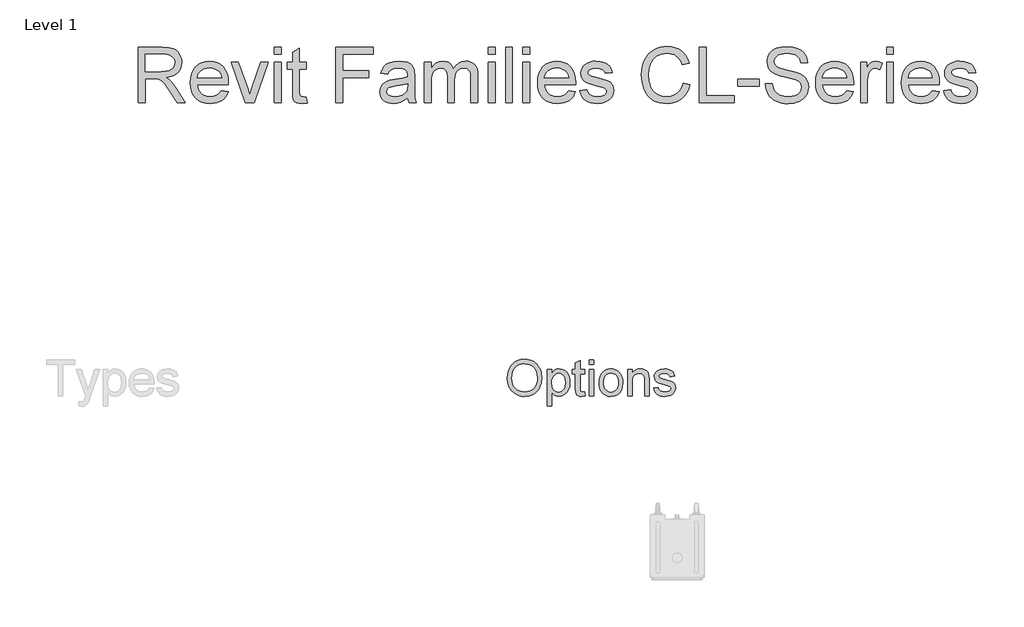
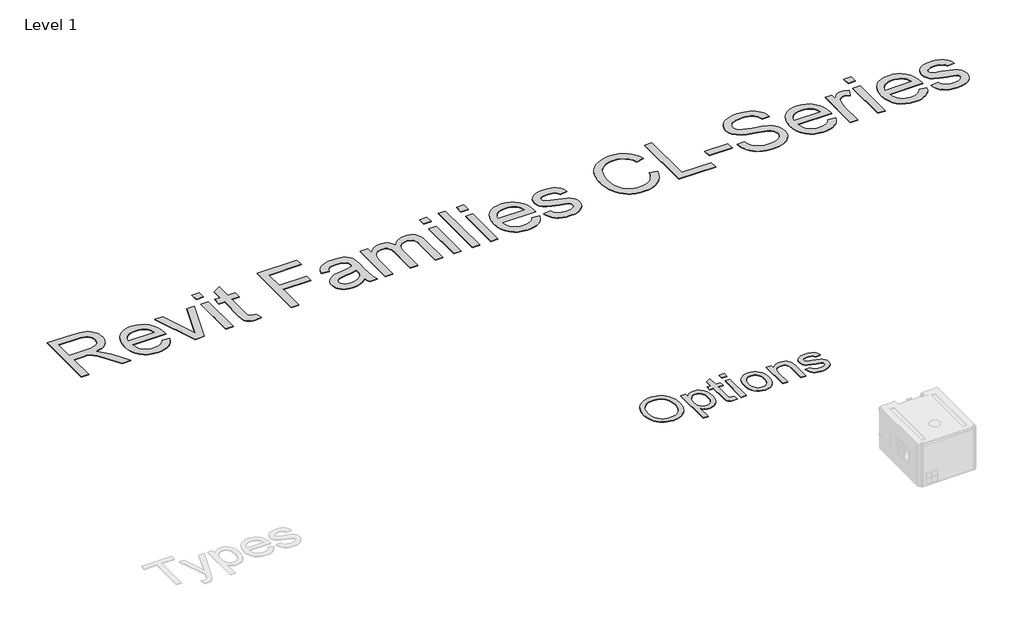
# One storey, part 25 of 31: 2 proxies.
"""IFC4 building model written with IfcOpenShell, lengths in millimetres."""

from ifc_helpers import new_model, si_unit, origin, origin_with_axes, place, context, project, spatial, polyline, outline, extrude, element, save

model = new_model("IFC4")

# Units and contexts
model_context = context("Model", 3, world=origin())
ifc_project = project(units=[si_unit("LENGTHUNIT", "METRE", prefix="MILLI")], contexts=[model_context])

# Site, building, storey
site = spatial("IfcSite", under=ifc_project)
building = spatial("IfcBuilding", under=site)
storey = spatial("IfcBuildingStorey", under=building, Name="Level 1", Elevation=0.0)

# Proxies
placement = place(None, origin())
element("IfcBuildingElementProxy", 1, Name="400mm Arial", ObjectType="400mm Arial", at=placement, inside=storey, context=model_context, shape_type="SweptSolid", body=[
    extrude(outline(polyline([(-6462.261333, 17542.0194987), (-6458.9974836, 17587.9704339), (-6449.2059353, 17628.6489968), (-6432.8866881, 17664.0551876), (-6410.0397421, 17694.1890063), (-6382.0340011, 17718.2494348), (-6350.238369, 17735.4354552), (-6314.6528458, 17745.7470674), (-6275.2774315, 17749.1842715), (-6248.9215484, 17747.57028), (-6223.892725, 17742.7283055), (-6200.1909613, 17734.6583482), (-6177.8162572, 17723.3604078), (-6157.3962762, 17709.1752161), (-6139.5586815, 17692.4435044), (-6124.3034732, 17673.1652729), (-6111.6306512, 17651.3405215), (-6101.671726, 17627.4654031), (-6094.558208, 17602.0360707), (-6088.8673936, 17546.5147639), (-6094.8570953, 17490.2522165), (-6102.3442224, 17464.4701971), (-6112.8262004, 17440.2543472), (-6126.0549528, 17418.2442857), (-6141.7824031, 17399.0796313), (-6160.0085513, 17382.7603841), (-6180.7333974, 17369.2865442), (-6226.4153339, 17351.2098396), (-6275.5643633, 17345.1842715), (-6302.3805328, 17346.8490738), (-6327.7381322, 17351.8434807), (-6351.6371616, 17360.1674923), (-6374.0776209, 17371.8211086), (-6394.473691, 17386.3530096), (-6412.2395527, 17403.3118756), (-6427.3752061, 17422.6977066), (-6439.8806512, 17444.5105025), (-6456.6661625, 17491.91403), (-6462.261333, 17542.0194987)]), holes=[polyline([(-6413.291636, 17541.541279), (-6410.843749, 17509.0761393), (-6403.5000877, 17480.2574249), (-6391.2606524, 17455.0851356), (-6374.1254429, 17433.5592715), (-6353.2959862, 17416.3194514), (-6329.9738093, 17404.0052942), (-6304.1589123, 17396.6167999), (-6275.8512951, 17394.1539684), (-6247.0594805, 17396.6407108), (-6220.9397184, 17404.1009381), (-6197.4920089, 17416.5346502), (-6176.7163519, 17433.9418472), (-6159.7066751, 17455.92202), (-6147.5569059, 17482.0746597), (-6140.2670444, 17512.3997662), (-6137.8370906, 17546.8973396), (-6141.9976019, 17590.2479552), (-6154.479136, 17627.7164684), (-6174.9588946, 17658.3583955), (-6203.1140792, 17681.2292525), (-6237.0796332, 17695.468244), (-6274.9904997, 17700.2145745), (-6302.3147776, 17697.9280866), (-6327.6663993, 17691.0686228), (-6351.0453647, 17679.6361831), (-6372.4516739, 17663.6307677), (-6390.3191573, 17642.2812471), (-6403.0816455, 17614.8164921), (-6410.7391384, 17581.2365027), (-6413.291636, 17541.541279)])]), origin_with_axes(), (0.0, 0.0, 1.0), 5.0),
    extrude(outline(polyline([(-6027.6552724, 17241.1236654), (-6027.6552724, 17639.0024533), (-5978.6855754, 17639.0024533), (-5978.6855754, 17590.9891957), (-5962.7130375, 17614.6730262), (-5944.8276209, 17631.590048), (-5923.9772421, 17641.740261), (-5899.1098179, 17645.1236654), (-5865.9931038, 17640.3892904), (-5837.0369012, 17626.1861654), (-5813.4606701, 17603.3750858), (-5796.4838709, 17572.8168472), (-5786.2260584, 17536.7351711), (-5782.8067875, 17497.353779), (-5786.6684116, 17455.4736891), (-5798.2532838, 17418.0171313), (-5817.1907838, 17386.885029), (-5843.1102913, 17363.9783055), (-5873.2979097, 17349.88278), (-5905.0397421, 17345.1842715), (-5927.5519343, 17348.328566), (-5947.6491171, 17357.7614495), (-5964.8530707, 17372.000441), (-5978.6855754, 17389.5630593), (-5978.6855754, 17241.1236654), (-6027.6552724, 17241.1236654)]), holes=[polyline([(-5978.6855754, 17492.8585139), (-5973.3892923, 17448.9579457), (-5966.7689384, 17431.9572355), (-5957.5004429, 17418.2562411), (-5934.0557222, 17400.1795366), (-5920.6386708, 17395.6603605), (-5906.0918254, 17394.1539684), (-5891.3357589, 17395.7141602), (-5877.6736199, 17400.3947355), (-5853.6311247, 17419.1170366), (-5844.0697196, 17433.3141839), (-5837.2401446, 17450.9425574), (-5831.7764845, 17496.4929836), (-5837.1086341, 17540.1544419), (-5843.7738212, 17557.2866625), (-5853.105083, 17571.2865442), (-5876.5139372, 17589.9371124), (-5889.778556, 17594.5997544), (-5904.0833027, 17596.1539684), (-5918.3432163, 17594.5011216), (-5931.7602677, 17589.5425811), (-5956.0657838, 17569.7084192), (-5965.9619426, 17554.9882191), (-5973.0306275, 17537.2731682), (-5977.2718384, 17516.5632665), (-5978.6855754, 17492.8585139)])]), origin_with_axes(), (0.0, 0.0, 1.0), 5.0),
    extrude(outline(polyline([(-5623.6552724, 17392.1454457), (-5617.5340603, 17349.8708245), (-5654.1656891, 17345.1842715), (-5677.6701872, 17347.2167052), (-5695.1969391, 17353.3140063), (-5707.5828292, 17362.7110233), (-5715.6647421, 17374.6426048), (-5720.1121853, 17395.1343188), (-5721.5946663, 17430.2117336), (-5721.5946663, 17590.0327563), (-5758.3219391, 17590.0327563), (-5758.3219391, 17639.0024533), (-5721.5946663, 17639.0024533), (-5721.5946663, 17708.918173), (-5672.6249694, 17737.7069987), (-5672.6249694, 17639.0024533), (-5623.6552724, 17639.0024533), (-5623.6552724, 17590.0327563), (-5672.6249694, 17590.0327563), (-5672.6249694, 17431.6463927), (-5670.042583, 17406.3963927), (-5661.6737383, 17397.4536843), (-5644.9838709, 17394.1539684), (-5623.6552724, 17392.1454457)])), origin_with_axes(), (0.0, 0.0, 1.0), 5.0),
    extrude(outline(polyline([(-5574.6855754, 17351.3054836), (-5574.6855754, 17639.0024533), (-5525.7158785, 17639.0024533), (-5525.7158785, 17351.3054836), (-5574.6855754, 17351.3054836)])), origin_with_axes(), (0.0, 0.0, 1.0), 5.0),
    extrude(outline(polyline([(-5574.6855754, 17694.0933624), (-5574.6855754, 17743.0630593), (-5525.7158785, 17743.0630593), (-5525.7158785, 17694.0933624), (-5574.6855754, 17694.0933624)])), origin_with_axes(), (0.0, 0.0, 1.0), 5.0),
    extrude(outline(polyline([(-5464.5037572, 17495.1539684), (-5461.8556157, 17532.4132606), (-5453.911191, 17564.5197355), (-5440.6704831, 17591.4733931), (-5422.1334921, 17613.2742336), (-5403.4709684, 17627.20836), (-5382.871655, 17637.1613074), (-5360.3355518, 17643.1330759), (-5335.8626588, 17645.1236654), (-5308.8462348, 17642.6996893), (-5284.4181749, 17635.427761), (-5262.5784791, 17623.3078806), (-5243.3271474, 17606.340048), (-5227.6146415, 17585.0981268), (-5216.391423, 17560.1559807), (-5209.6574919, 17531.5136098), (-5207.4128482, 17499.1710139), (-5211.3820716, 17449.6991862), (-5223.2897421, 17412.0393851), (-5242.7891502, 17383.8363785), (-5269.5335868, 17362.7349343), (-5301.2993302, 17349.5719372), (-5335.8626588, 17345.1842715), (-5363.273614, 17347.5992809), (-5387.9288283, 17354.8443093), (-5409.8283015, 17366.9193567), (-5428.9720338, 17383.824423), (-5444.5171628, 17405.2725764), (-5455.6208264, 17430.9768851), (-5462.2830245, 17460.9373491), (-5464.5037572, 17495.1539684)]), holes=[polyline([(-5415.5340603, 17495.2496124), (-5414.1173344, 17471.4970378), (-5409.8671569, 17450.9306019), (-5402.7835276, 17433.5503048), (-5392.8664466, 17419.3561465), (-5380.8033548, 17408.3301936), (-5367.2816929, 17400.4545129), (-5352.3014608, 17395.7291045), (-5335.8626588, 17394.1539684), (-5319.5075451, 17395.7380712), (-5304.5870906, 17400.4903794), (-5291.1012951, 17408.4108931), (-5279.0501588, 17419.4996124), (-5269.1330778, 17433.8342478), (-5262.0494485, 17451.4925101), (-5257.799271, 17472.4743993), (-5256.3825451, 17496.7799154), (-5257.8082376, 17519.7792939), (-5262.085315, 17539.8077326), (-5269.2137774, 17556.8652314), (-5279.1936247, 17570.9517904), (-5291.2895941, 17581.9777433), (-5304.766423, 17589.8534239), (-5319.6241112, 17594.5788323), (-5335.8626588, 17596.1539684), (-5352.3014608, 17594.58481), (-5367.2816929, 17589.8773349), (-5380.8033548, 17582.031543), (-5392.8664466, 17571.0474343), (-5402.7835276, 17556.8951202), (-5409.8671569, 17539.5447118), (-5414.1173344, 17518.9962092), (-5415.5340603, 17495.2496124)])]), origin_with_axes(), (0.0, 0.0, 1.0), 5.0),
    extrude(outline(polyline([(-5152.3219391, 17351.3054836), (-5152.3219391, 17639.0024533), (-5103.3522421, 17639.0024533), (-5103.3522421, 17598.8319987), (-5086.3395764, 17619.0846029), (-5065.9076398, 17633.5507487), (-5042.0564324, 17642.2304362), (-5014.7859542, 17645.1236654), (-4990.647815, 17642.7923444), (-4968.5421095, 17635.7983813), (-4950.1067402, 17625.0145271), (-4936.9796095, 17611.3135328), (-4928.0727677, 17594.7312648), (-4922.2982648, 17575.3035896), (-4919.7158785, 17527.9598396), (-4919.7158785, 17351.3054836), (-4968.6855754, 17351.3054836), (-4968.6855754, 17521.3604078), (-4970.0963235, 17546.6821408), (-4974.3285679, 17564.6871124), (-4982.1355044, 17577.5870887), (-4994.2703292, 17587.5938358), (-5009.8244249, 17594.0139353), (-5027.8891739, 17596.1539684), (-5056.5704002, 17591.3478605), (-5081.0193822, 17576.9295366), (-5090.7900084, 17565.1593543), (-5097.7690271, 17549.0732393), (-5101.9564384, 17528.6711914), (-5103.3522421, 17503.9532108), (-5103.3522421, 17351.3054836), (-5152.3219391, 17351.3054836)])), origin_with_axes(), (0.0, 0.0, 1.0), 5.0),
    extrude(outline(polyline([(-4870.7461815, 17437.0024533), (-4821.7764845, 17443.1236654), (-4814.0532364, 17422.1776427), (-4799.1088709, 17406.7789684), (-4776.847744, 17397.3102184), (-4747.1742118, 17394.1539684), (-4717.8593444, 17397.0471976), (-4697.2480754, 17405.7268851), (-4685.0534732, 17418.3040631), (-4680.9886057, 17432.8897639), (-4685.0773841, 17445.371298), (-4697.3437194, 17454.8878699), (-4747.7480754, 17468.8518851), (-4821.4895527, 17492.8106919), (-4840.1520764, 17504.8498728), (-4853.6737383, 17520.7865442), (-4861.8871616, 17539.6044893), (-4864.6249694, 17560.2874911), (-4862.4251588, 17579.2608576), (-4855.8257269, 17596.775654), (-4845.4244485, 17612.1384618), (-4831.8190982, 17624.6558624), (-4800.6869959, 17639.1459192), (-4758.5558406, 17645.1236654), (-4726.6824978, 17642.7206114), (-4698.9696663, 17635.5114495), (-4676.6846285, 17624.2015536), (-4661.0946663, 17609.496298), (-4650.7651209, 17590.3077326), (-4644.261333, 17565.5479078), (-4693.23103, 17559.4266957), (-4699.4120196, 17574.8373254), (-4711.6424883, 17586.4461086), (-4730.0419911, 17593.7270035), (-4754.730083, 17596.1539684), (-4782.8494012, 17593.8346029), (-4801.5956133, 17586.8765063), (-4812.1403576, 17576.8338927), (-4815.6552724, 17565.260976), (-4809.8209921, 17551.010029), (-4791.5529997, 17540.2022639), (-4749.3740224, 17529.7770745), (-4677.4976019, 17506.7268851), (-4658.51228, 17495.7039211), (-4644.1178671, 17480.6160896), (-4635.0436483, 17461.4155688), (-4632.0189088, 17438.0545366), (-4635.56969, 17413.9044419), (-4646.2220338, 17391.1890063), (-4663.5694533, 17371.6895982), (-4687.2054618, 17357.1875858), (-4715.7551777, 17348.1851), (-4747.8437194, 17345.1842715), (-4774.1996024, 17346.630886), (-4797.2199031, 17350.9707298), (-4816.9046214, 17358.2038027), (-4833.2537572, 17368.3301048), (-4846.6080423, 17381.3018141), (-4857.308208, 17397.0711086), (-4865.3542544, 17415.6379883), (-4870.7461815, 17437.0024533)])), origin_with_axes(), (0.0, 0.0, 1.0), 5.0),
])
element("IfcBuildingElementProxy", 2, Name="600mm Arial", ObjectType="600mm Arial", at=placement, inside=storey, context=model_context, shape_type="SweptSolid", body=[
    extrude(outline(polyline([(-10475.7189768, 20541.6162982), (-10475.7189768, 21144.3541591), (-10215.9942882, 21144.3541591), (-10146.1886797, 21140.2890631), (-10095.4025702, 21128.0937749), (-10075.8036569, 21118.4000843), (-10058.2832769, 21105.5793968), (-10042.8414302, 21089.6317123), (-10029.4781167, 21070.5570309), (-10018.6945757, 21049.3808235), (-10010.9920464, 21027.1285613), (-10006.3705289, 21003.8002443), (-10004.830023, 20979.3958725), (-10007.3822044, 20948.4386026), (-10015.0387484, 20920.0197184), (-10027.7996551, 20894.1392201), (-10045.6649245, 20870.7971075), (-10068.8644828, 20850.7383417), (-10097.6282563, 20834.7078838), (-10131.956245, 20822.7057337), (-10171.8484488, 20814.7318914), (-10147.0164141, 20798.5082954), (-10129.0269846, 20782.5054286), (-10098.1616852, 20745.9011701), (-10067.9585734, 20704.9559041), (-9967.4532123, 20541.6162982), (-10055.0091272, 20541.6162982), (-10133.4415685, 20666.5490238), (-10190.0953958, 20749.2488963), (-10211.15664, 20773.3635611), (-10229.9002277, 20788.3179642), (-10265.731934, 20802.665362), (-10309.436315, 20805.3141124), (-10400.3767442, 20805.3141124), (-10400.3767442, 20541.6162982), (-10475.7189768, 20541.6162982)]), holes=[polyline([(-10400.3767442, 20880.656345), (-10231.7396376, 20880.656345), (-10183.307973, 20883.3234894), (-10145.7288272, 20891.3249228), (-10117.4387017, 20905.194074), (-10096.8740982, 20925.464372), (-10084.3477163, 20949.983707), (-10080.1722556, 20976.5999693), (-10082.1634169, 20995.8677888), (-10088.1369008, 21013.3513806), (-10098.0927073, 21029.0507448), (-10112.0308364, 21042.9658812), (-10130.2731848, 21054.361026), (-10153.1416494, 21062.5004152), (-10180.63623, 21067.3840487), (-10212.7569267, 21069.0119265), (-10400.3767442, 21069.0119265), (-10400.3767442, 20880.656345)])]), origin_with_axes(), (0.0, 0.0, 1.0), 5.0),
    extrude(outline(polyline([(-9572.4951023, 20673.4652053), (-9498.6243976, 20664.0474262), (-9509.9505646, 20634.4605167), (-9525.24066, 20608.3868803), (-9544.4946839, 20585.826517), (-9567.7126363, 20566.7794267), (-9594.655394, 20551.6502796), (-9625.0838335, 20540.843746), (-9658.9979549, 20534.3598259), (-9696.3977583, 20532.1985191), (-9743.1463628, 20535.9279229), (-9784.7998017, 20547.116134), (-9821.358075, 20565.7631527), (-9852.8211826, 20591.8689787), (-9878.1222668, 20624.7070453), (-9896.1944698, 20663.5507855), (-9907.0377916, 20708.4001992), (-9910.6522322, 20759.2552866), (-9907.0010034, 20811.8348207), (-9896.047317, 20858.1787551), (-9877.791173, 20898.2870896), (-9852.2325714, 20932.1598243), (-9820.8522372, 20959.0703922), (-9785.1308955, 20978.2922265), (-9745.0685462, 20989.825327), (-9700.6651894, 20993.6696939), (-9657.6919738, 20989.8345241), (-9618.8298396, 20978.3290147), (-9584.0787866, 20959.1531657), (-9553.4388149, 20932.3069771), (-9528.4274378, 20898.5078188), (-9510.5621684, 20858.4730607), (-9499.8430068, 20812.2027027), (-9496.2699529, 20759.6967449), (-9496.7114113, 20739.3896588), (-9835.3099996, 20739.3896588), (-9830.9459995, 20709.3245028), (-9822.2685829, 20682.993349), (-9809.27775, 20660.3961974), (-9791.9735006, 20641.5330481), (-9771.312328, 20626.6614184), (-9748.2507255, 20616.0388258), (-9722.7886929, 20609.6652703), (-9694.9262303, 20607.5407517), (-9654.8270928, 20611.4770891), (-9621.0555256, 20623.2861011), (-9593.6115288, 20643.7035519), (-9572.4951023, 20673.4652053)]), holes=[polyline([(-9835.3099996, 20814.7318914), (-9571.6121855, 20814.7318914), (-9581.8025168, 20854.5367233), (-9590.5673053, 20870.1901022), (-9601.7785091, 20883.0107897), (-9622.3247185, 20898.4618335), (-9645.7036193, 20909.4982934), (-9671.9152115, 20916.1201693), (-9700.959495, 20918.3274613), (-9727.4515972, 20916.5662262), (-9751.7456044, 20911.2825211), (-9773.8415168, 20902.4763458), (-9793.7393342, 20890.1477004), (-9810.4365782, 20874.8668021), (-9822.9307705, 20857.2038678), (-9831.221911, 20837.1588976), (-9835.3099996, 20814.7318914)])]), origin_with_axes(), (0.0, 0.0, 1.0), 5.0),
    extrude(outline(polyline([(-9312.0346497, 20541.6162982), (-9468.0166157, 20984.2519148), (-9388.4069519, 20984.2519148), (-9293.9348555, 20719.0825727), (-9265.5343655, 20629.9079771), (-9237.7224867, 20714.0793775), (-9142.8089319, 20984.2519148), (-9063.0521154, 20984.2519148), (-9216.8267893, 20541.6162982), (-9312.0346497, 20541.6162982)])), origin_with_axes(), (0.0, 0.0, 1.0), 5.0),
    extrude(outline(polyline([(-8997.1276618, 21069.0119265), (-8997.1276618, 21144.3541591), (-8921.7854292, 21144.3541591), (-8921.7854292, 21069.0119265), (-8997.1276618, 21069.0119265)])), origin_with_axes(), (0.0, 0.0, 1.0), 5.0),
    extrude(outline(polyline([(-8997.1276618, 20541.6162982), (-8997.1276618, 20984.2519148), (-8921.7854292, 20984.2519148), (-8921.7854292, 20541.6162982), (-8997.1276618, 20541.6162982)])), origin_with_axes(), (0.0, 0.0, 1.0), 5.0),
    extrude(outline(polyline([(-8648.669836, 20604.450543), (-8639.2520569, 20539.4090062), (-8695.6115786, 20532.1985191), (-8731.7743787, 20535.3255161), (-8758.7401289, 20544.706507), (-8777.7964163, 20559.1642694), (-8790.2308277, 20577.5215809), (-8797.0734328, 20609.0490679), (-8799.3543012, 20663.0173566), (-8799.3543012, 20908.9096822), (-8855.8609757, 20908.9096822), (-8855.8609757, 20984.2519148), (-8799.3543012, 20984.2519148), (-8799.3543012, 21091.8206102), (-8724.0120686, 21136.1136024), (-8724.0120686, 20984.2519148), (-8648.669836, 20984.2519148), (-8648.669836, 20908.9096822), (-8724.0120686, 20908.9096822), (-8724.0120686, 20665.2246486), (-8720.0389431, 20626.3763099), (-8707.1630732, 20612.6175233), (-8696.2921603, 20608.8099446), (-8681.48491, 20607.5407517), (-8648.669836, 20604.450543)])), origin_with_axes(), (0.0, 0.0, 1.0), 5.0),
    extrude(outline(polyline([(-8328.4653474, 20541.6162982), (-8328.4653474, 21144.3541591), (-7923.5008471, 21144.3541591), (-7923.5008471, 21069.0119265), (-8253.1231148, 21069.0119265), (-8253.1231148, 20890.074124), (-7970.5897425, 20890.074124), (-7970.5897425, 20814.7318914), (-8253.1231148, 20814.7318914), (-8253.1231148, 20541.6162982), (-8328.4653474, 20541.6162982)])), origin_with_axes(), (0.0, 0.0, 1.0), 5.0),
    extrude(outline(polyline([(-7546.789684, 20598.1229727), (-7582.7869373, 20567.2576733), (-7619.8510483, 20547.0609517), (-7658.8281457, 20535.9141273), (-7700.564358, 20532.1985191), (-7734.1105975, 20534.4334023), (-7763.5273615, 20541.1380516), (-7788.8146501, 20552.3124672), (-7809.9724634, 20567.9566491), (-7826.6789045, 20587.0773158), (-7838.6120767, 20608.6811859), (-7845.77198, 20632.7682596), (-7848.1586145, 20659.3385367), (-7844.5533709, 20690.5717181), (-7833.7376403, 20718.9354199), (-7817.0541918, 20743.2156316), (-7795.8457948, 20762.1983425), (-7770.9217896, 20776.5457403), (-7743.0915167, 20786.9200126), (-7677.9028271, 20798.250778), (-7600.8683373, 20810.1701547), (-7547.2311424, 20824.1496705), (-7546.789684, 20840.9250895), (-7551.9768202, 20874.5495038), (-7558.4607403, 20887.0023094), (-7567.5382286, 20896.5488472), (-7583.2283957, 20906.0769908), (-7602.3398653, 20912.8828077), (-7650.8267123, 20918.3274613), (-7695.7083157, 20914.7038236), (-7727.0518617, 20903.8329107), (-7748.4258056, 20883.7281596), (-7763.3986028, 20852.4030077), (-7838.7408354, 20861.8207868), (-7825.6626305, 20903.0235703), (-7806.1464906, 20935.3971858), (-7778.3714, 20960.1556441), (-7740.5163427, 20978.5129557), (-7694.2183936, 20989.8805093), (-7641.1146276, 20993.6696939), (-7590.1813654, 20990.3219677), (-7549.8063164, 20980.2787893), (-7519.3640813, 20965.1772334), (-7498.2292607, 20946.6543749), (-7484.2129567, 20923.7537207), (-7475.1262714, 20895.5187776), (-7471.4474514, 20829.594324), (-7471.4474514, 20735.8579917), (-7467.6214787, 20604.9655778), (-7461.956096, 20572.6103563), (-7452.6118933, 20541.6162982), (-7527.9541259, 20541.6162982), (-7540.0206553, 20567.8094963), (-7546.789684, 20598.1229727)]), holes=[polyline([(-7546.789684, 20748.8074379), (-7597.4102466, 20736.2626619), (-7668.3378952, 20725.7044486), (-7733.1587028, 20713.4907664), (-7750.0260923, 20705.1398451), (-7762.515686, 20693.6251386), (-7770.2412079, 20679.8295638), (-7772.8163819, 20664.6360374), (-7767.2061814, 20642.2320239), (-7750.3755802, 20623.8747123), (-7722.69246, 20611.6242419), (-7684.524703, 20607.5407517), (-7644.0576836, 20612.0473062), (-7608.2995536, 20625.5669695), (-7579.3104524, 20645.4877795), (-7559.1505191, 20669.1977741), (-7550.2109866, 20693.6251386), (-7547.2311424, 20727.4702822), (-7546.789684, 20748.8074379)])]), origin_with_axes(), (0.0, 0.0, 1.0), 5.0),
    extrude(outline(polyline([(-7367.8518816, 20541.6162982), (-7367.8518816, 20984.2519148), (-7292.509649, 20984.2519148), (-7292.509649, 20911.4112798), (-7269.8481181, 20944.8701472), (-7240.7118641, 20971.0817394), (-7206.0941683, 20988.0227053), (-7166.9883122, 20993.6696939), (-7125.086553, 20987.9123407), (-7107.2534733, 20980.7156491), (-7091.4989268, 20970.640281), (-7066.4093747, 20942.993949), (-7050.0018378, 20906.113779), (-7022.5394468, 20944.4194918), (-6991.2142949, 20971.7807152), (-6956.0263821, 20988.1974492), (-6916.9757083, 20993.6696939), (-6886.8139832, 20991.393424), (-6860.3402751, 20984.5646145), (-6837.5545841, 20973.1832653), (-6818.45691, 20957.2493764), (-6803.3599526, 20936.5790068), (-6792.5764116, 20910.9882155), (-6786.106287, 20880.4770025), (-6783.9495788, 20845.0453678), (-6783.9495788, 20541.6162982), (-6859.2918115, 20541.6162982), (-6859.2918115, 20812.6717523), (-6861.0392509, 20850.2508981), (-6866.2815694, 20875.5795734), (-6876.1040186, 20892.9252095), (-6891.5918506, 20906.5552374), (-6911.5126607, 20915.3844053), (-6934.6340441, 20918.3274613), (-6955.9849954, 20916.442066), (-6975.4505514, 20910.7858804), (-6993.0307123, 20901.3589042), (-7008.7254779, 20888.1611377), (-7021.6335374, 20870.8063045), (-7030.8535799, 20848.9081288), (-7036.3856054, 20822.4666104), (-7038.2296139, 20791.4817493), (-7038.2296139, 20541.6162982), (-7113.5718465, 20541.6162982), (-7113.5718465, 20821.0594617), (-7117.9312482, 20863.6601968), (-7123.3805002, 20880.3804335), (-7131.0094531, 20894.0472496), (-7141.1216094, 20904.6698422), (-7154.0204719, 20912.2574083), (-7169.7060405, 20916.809948), (-7188.1783151, 20918.3274613), (-7217.2042046, 20914.2807593), (-7243.9492256, 20902.1406535), (-7266.0221453, 20882.2014493), (-7281.0317307, 20854.7574525), (-7289.6401694, 20816.681666), (-7292.509649, 20764.8470929), (-7292.509649, 20541.6162982), (-7367.8518816, 20541.6162982)])), origin_with_axes(), (0.0, 0.0, 1.0), 5.0),
    extrude(outline(polyline([(-6670.9362299, 21069.0119265), (-6670.9362299, 21144.3541591), (-6595.5939973, 21144.3541591), (-6595.5939973, 21069.0119265), (-6670.9362299, 21069.0119265)])), origin_with_axes(), (0.0, 0.0, 1.0), 5.0),
    extrude(outline(polyline([(-6670.9362299, 20541.6162982), (-6670.9362299, 20984.2519148), (-6595.5939973, 20984.2519148), (-6595.5939973, 20541.6162982), (-6670.9362299, 20541.6162982)])), origin_with_axes(), (0.0, 0.0, 1.0), 5.0),
    extrude(outline(polyline([(-6482.5806484, 20541.6162982), (-6482.5806484, 21144.3541591), (-6407.2384158, 21144.3541591), (-6407.2384158, 20541.6162982), (-6482.5806484, 20541.6162982)])), origin_with_axes(), (0.0, 0.0, 1.0), 5.0),
    extrude(outline(polyline([(-6294.2250669, 21069.0119265), (-6294.2250669, 21144.3541591), (-6218.8828342, 21144.3541591), (-6218.8828342, 21069.0119265), (-6294.2250669, 21069.0119265)])), origin_with_axes(), (0.0, 0.0, 1.0), 5.0),
    extrude(outline(polyline([(-6294.2250669, 20541.6162982), (-6294.2250669, 20984.2519148), (-6218.8828342, 20984.2519148), (-6218.8828342, 20541.6162982), (-6294.2250669, 20541.6162982)])), origin_with_axes(), (0.0, 0.0, 1.0), 5.0),
    extrude(outline(polyline([(-5795.9656926, 20673.4652053), (-5722.094988, 20664.0474262), (-5733.4211549, 20634.4605167), (-5748.7112503, 20608.3868803), (-5767.9652742, 20585.826517), (-5791.1832267, 20566.7794267), (-5818.1259843, 20551.6502796), (-5848.5544238, 20540.843746), (-5882.4685452, 20534.3598259), (-5919.8683486, 20532.1985191), (-5966.6169531, 20535.9279229), (-6008.270392, 20547.116134), (-6044.8286653, 20565.7631527), (-6076.2917729, 20591.8689787), (-6101.5928571, 20624.7070453), (-6119.6650602, 20663.5507855), (-6130.508382, 20708.4001992), (-6134.1228226, 20759.2552866), (-6130.4715938, 20811.8348207), (-6119.5179074, 20858.1787551), (-6101.2617633, 20898.2870896), (-6075.7031617, 20932.1598243), (-6044.3228275, 20959.0703922), (-6008.6014858, 20978.2922265), (-5968.5391365, 20989.825327), (-5924.1357797, 20993.6696939), (-5881.1625642, 20989.8345241), (-5842.3004299, 20978.3290147), (-5807.5493769, 20959.1531657), (-5776.9094052, 20932.3069771), (-5751.8980281, 20898.5078188), (-5734.0327587, 20858.4730607), (-5723.3135971, 20812.2027027), (-5719.7405432, 20759.6967449), (-5720.1820016, 20739.3896588), (-6058.7805899, 20739.3896588), (-6054.4165898, 20709.3245028), (-6045.7391732, 20682.993349), (-6032.7483403, 20660.3961974), (-6015.4440909, 20641.5330481), (-5994.7829184, 20626.6614184), (-5971.7213158, 20616.0388258), (-5946.2592832, 20609.6652703), (-5918.3968206, 20607.5407517), (-5878.2976831, 20611.4770891), (-5844.526116, 20623.2861011), (-5817.0821191, 20643.7035519), (-5795.9656926, 20673.4652053)]), holes=[polyline([(-6058.7805899, 20814.7318914), (-5795.0827758, 20814.7318914), (-5805.2731071, 20854.5367233), (-5814.0378956, 20870.1901022), (-5825.2490994, 20883.0107897), (-5845.7953088, 20898.4618335), (-5869.1742096, 20909.4982934), (-5895.3858018, 20916.1201693), (-5924.4300853, 20918.3274613), (-5950.9221875, 20916.5662262), (-5975.2161947, 20911.2825211), (-5997.3121071, 20902.4763458), (-6017.2099245, 20890.1477004), (-6033.9071685, 20874.8668021), (-6046.4013608, 20857.2038678), (-6054.6925013, 20837.1588976), (-6058.7805899, 20814.7318914)])]), origin_with_axes(), (0.0, 0.0, 1.0), 5.0),
    extrude(outline(polyline([(-5672.6516478, 20673.4652053), (-5597.3094152, 20682.8829844), (-5592.7568755, 20665.7028952), (-5585.4268268, 20650.6565216), (-5575.3192689, 20637.7438635), (-5562.4342021, 20626.9649211), (-5546.7348379, 20618.466847), (-5528.1843883, 20612.3967941), (-5482.5302327, 20607.5407517), (-5437.4279001, 20611.9921239), (-5419.898323, 20617.5563391), (-5405.7164721, 20625.3462403), (-5386.9544904, 20644.6968333), (-5382.2639949, 20655.530958), (-5380.7004964, 20667.137635), (-5382.273192, 20677.3095721), (-5386.9912786, 20686.3410751), (-5405.8636249, 20700.9827785), (-5434.0801739, 20710.5477104), (-5483.4131495, 20722.467087), (-5552.1702944, 20742.3511089), (-5596.8679568, 20759.328863), (-5625.5811465, 20777.8517214), (-5646.3848734, 20802.3710564), (-5659.0216199, 20831.3233694), (-5663.2338687, 20863.145162), (-5659.8493544, 20892.3365983), (-5649.6958113, 20919.2839545), (-5633.6929445, 20942.9203726), (-5612.760459, 20962.1789951), (-5591.9567322, 20974.3007068), (-5564.8622232, 20984.472644), (-5533.5370713, 20991.3704314), (-5500.0414157, 20993.6696939), (-5451.0027457, 20989.9724798), (-5408.3652225, 20978.8808377), (-5374.0786205, 20961.4800193), (-5350.0927144, 20938.8552766), (-5334.2002122, 20909.3327465), (-5324.193822, 20871.2385659), (-5399.5360546, 20861.8207868), (-5409.0458042, 20885.5307814), (-5427.8629682, 20903.3914523), (-5456.1714877, 20914.593459), (-5494.1553038, 20918.3274613), (-5537.4182264, 20914.7590059), (-5566.2601748, 20904.0536399), (-5582.4837708, 20888.6025961), (-5587.8916361, 20870.7971075), (-5585.647556, 20859.2088246), (-5578.9153154, 20848.8713406), (-5567.400609, 20839.6375025), (-5550.809131, 20832.2430744), (-5485.9147471, 20816.2034194), (-5375.3294193, 20780.7395951), (-5346.1195889, 20763.7802351), (-5323.9730928, 20740.5668812), (-5310.0119711, 20711.025957), (-5305.3582638, 20675.0838861), (-5310.8213115, 20637.9278045), (-5327.2104543, 20602.979015), (-5353.9002931, 20572.9782383), (-5390.2654283, 20550.6661953), (-5434.1905385, 20536.8154382), (-5483.5603023, 20532.1985191), (-5524.1100952, 20534.4242052), (-5559.5279343, 20541.1012634), (-5589.8138195, 20552.2296938), (-5614.967751, 20567.8094963), (-5635.5139604, 20587.7670945), (-5651.9766797, 20612.0289121), (-5664.3559088, 20640.594949), (-5672.6516478, 20673.4652053)])), origin_with_axes(), (0.0, 0.0, 1.0), 5.0),
    extrude(outline(polyline([(-4551.9359377, 20755.8707722), (-4476.5937051, 20736.4466029), (-4491.5021229, 20689.5922322), (-4511.3585536, 20648.6515647), (-4536.1629972, 20613.6246002), (-4565.9154535, 20584.5113388), (-4599.9445381, 20561.6244802), (-4637.5788662, 20545.2767241), (-4678.8184378, 20535.4680704), (-4723.6632531, 20532.1985191), (-4769.6071157, 20534.6725255), (-4811.053621, 20542.0945448), (-4848.0027689, 20554.4645769), (-4880.4545594, 20571.7826218), (-4908.8550494, 20593.7911622), (-4933.6502959, 20620.2326806), (-4954.8402988, 20651.107177), (-4972.4250582, 20686.4146515), (-4986.2344286, 20724.6283938), (-4996.0982646, 20764.2216935), (-5002.0165662, 20805.1945507), (-5003.9893334, 20847.5469654), (-5001.7590488, 20892.9895889), (-4995.068195, 20935.433974), (-4983.916772, 20974.880121), (-4968.3047798, 21011.3280296), (-4948.5817064, 21044.1752933), (-4925.0970395, 21072.8195051), (-4897.8507792, 21097.2606652), (-4866.8429256, 21117.4987735), (-4833.1265407, 21133.368283), (-4797.7546869, 21144.703647), (-4760.7273641, 21151.5048654), (-4722.0445723, 21153.7719382), (-4678.9517951, 21150.8380793), (-4639.4366703, 21142.0365025), (-4603.4991979, 21127.367208), (-4571.1393779, 21106.8301956), (-4542.8906391, 21080.9680913), (-4519.2864106, 21050.3235211), (-4500.3266923, 21014.896485), (-4486.0114842, 20974.6869829), (-4561.3537168, 20956.7343416), (-4573.2179111, 20986.3626378), (-4587.4733384, 21011.6775175), (-4604.1199987, 21032.6789809), (-4623.157892, 21049.367028), (-4644.6973828, 21062.0819494), (-4668.8488358, 21071.1640362), (-4695.6122509, 21076.6132882), (-4724.9876282, 21078.4297056), (-4758.7867865, 21076.4155516), (-4789.6980712, 21070.3730899), (-4817.7214822, 21060.3023203), (-4842.8570195, 21046.2032428), (-4864.7873849, 21028.7104539), (-4883.1952803, 21008.4585501), (-4898.0807055, 20985.4475313), (-4909.4436606, 20959.6773975), (-4923.8462407, 20904.5318864), (-4928.6471008, 20847.6941182), (-4922.9633239, 20778.0908447), (-4915.8586029, 20746.8208751), (-4905.9119935, 20717.9053503), (-4892.9625472, 20691.9190859), (-4876.8493158, 20669.4368974), (-4857.5722993, 20650.458785), (-4835.1314976, 20634.9847486), (-4810.6167611, 20622.978), (-4785.1179403, 20614.401751), (-4758.6350352, 20609.2560015), (-4731.1680458, 20607.5407517), (-4698.4127526, 20609.8768024), (-4668.2786187, 20616.8849544), (-4640.765644, 20628.5652078), (-4615.8738285, 20644.9175625), (-4594.1917834, 20665.8684421), (-4576.3081199, 20691.3442702), (-4562.222838, 20721.345047), (-4551.9359377, 20755.8707722)])), origin_with_axes(), (0.0, 0.0, 1.0), 5.0),
    extrude(outline(polyline([(-4372.9981353, 20541.6162982), (-4372.9981353, 21144.3541591), (-4297.6559026, 21144.3541591), (-4297.6559026, 20616.9585308), (-3996.2869722, 20616.9585308), (-3996.2869722, 20541.6162982), (-4372.9981353, 20541.6162982)])), origin_with_axes(), (0.0, 0.0, 1.0), 5.0),
    extrude(outline(polyline([(-3958.6158559, 20720.5541007), (-3958.6158559, 20795.8963333), (-3723.171379, 20795.8963333), (-3723.171379, 20720.5541007), (-3958.6158559, 20720.5541007)])), origin_with_axes(), (0.0, 0.0, 1.0), 5.0),
    extrude(outline(polyline([(-3657.2469254, 20748.8074379), (-3581.9046928, 20748.8074379), (-3573.2594659, 20706.9976491), (-3557.6244811, 20673.3916289), (-3533.2339049, 20646.7201842), (-3498.3219035, 20625.7141223), (-3455.6475921, 20612.0840944), (-3407.9700855, 20607.5407517), (-3365.9947499, 20610.9804484), (-3329.2433385, 20621.2995384), (-3299.463291, 20637.6334989), (-3278.4020468, 20659.1178075), (-3265.8756649, 20683.7842952), (-3261.7002042, 20709.6647936), (-3264.8272012, 20734.8831044), (-3274.2081921, 20756.6801126), (-3293.2644794, 20775.2765474), (-3325.4173658, 20790.8931381), (-3435.1197767, 20819.6615102), (-3507.1326773, 20838.6994034), (-3553.2098972, 20856.8175917), (-3590.7154666, 20882.1646611), (-3617.2949408, 20912.8828077), (-3633.1322607, 20948.3098439), (-3638.4113673, 20987.783582), (-3636.7788909, 21010.2197851), (-3631.8814619, 21031.9110273), (-3623.7190801, 21052.8573084), (-3612.2917456, 21073.0586284), (-3597.7282171, 21091.6918515), (-3580.1572533, 21107.9338416), (-3559.5788542, 21121.7845987), (-3535.9930198, 21133.2441229), (-3482.9812243, 21148.6399843), (-3424.3040461, 21153.7719382), (-3360.7340373, 21148.4008611), (-3305.1102797, 21132.2876297), (-3280.7748857, 21120.2854796), (-3259.4193359, 21105.7633378), (-3241.0436302, 21088.7212044), (-3225.6477687, 21069.1590793), (-3213.351313, 21047.6471796), (-3204.2738248, 21024.7557225), (-3198.415304, 21000.4847078), (-3195.7757507, 20974.8341357), (-3271.1179833, 20974.8341357), (-3276.1579666, 20998.8752241), (-3284.9503463, 21019.7893155), (-3297.4951224, 21037.57641), (-3313.7922947, 21052.2365075), (-3334.1453661, 21063.6960317), (-3358.8578391, 21071.8814061), (-3387.9297138, 21076.7926307), (-3421.3609901, 21078.4297056), (-3455.8591242, 21076.8110248), (-3485.3356691, 21071.9549825), (-3509.7906247, 21063.8615786), (-3529.2239911, 21052.5308131), (-3544.0312414, 21038.9099822), (-3554.6078488, 21023.9463821), (-3560.9538132, 21007.6400126), (-3563.0691347, 20989.9908739), (-3561.5700155, 20974.8065446), (-3557.0726581, 20961.0385609), (-3549.5770625, 20948.6869229), (-3539.0832286, 20937.7516306), (-3522.565327, 20927.3957525), (-3496.5560699, 20916.9295097), (-3416.0634894, 20895.6659304), (-3332.9957349, 20875.4692088), (-3282.7430543, 20857.8476613), (-3239.7928314, 20830.514029), (-3223.1875579, 20814.4467829), (-3209.8288429, 20796.7792501), (-3199.5603367, 20777.6034011), (-3192.2256894, 20757.0112064), (-3186.3579716, 20711.57778), (-3188.0456303, 20688.0103397), (-3193.1086062, 20665.1326781), (-3201.5468995, 20642.9447953), (-3213.3605101, 20621.4466912), (-3228.3425043, 20601.4706988), (-3246.2859486, 20583.8491513), (-3267.190843, 20568.5820485), (-3291.0571874, 20555.6693904), (-3317.1906047, 20545.4008842), (-3344.8967174, 20538.066237), (-3405.0270295, 20532.1985191), (-3443.5672671, 20533.7804117), (-3478.8425519, 20538.5260894), (-3510.852884, 20546.4355523), (-3539.5982634, 20557.5088004), (-3565.253434, 20571.7642277), (-3587.9931398, 20589.2202284), (-3607.8173809, 20609.8768024), (-3624.7261571, 20633.7339498), (-3638.3469879, 20660.0191184), (-3648.307393, 20687.9597559), (-3654.6073721, 20717.5558624), (-3657.2469254, 20748.8074379)])), origin_with_axes(), (0.0, 0.0, 1.0), 5.0),
    extrude(outline(polyline([(-2772.858609, 20673.4652053), (-2698.9879044, 20664.0474262), (-2710.3140713, 20634.4605167), (-2725.6041667, 20608.3868803), (-2744.8581907, 20585.826517), (-2768.0761431, 20566.7794267), (-2795.0189007, 20551.6502796), (-2825.4473402, 20540.843746), (-2859.3614617, 20534.3598259), (-2896.761265, 20532.1985191), (-2943.5098695, 20535.9279229), (-2985.1633084, 20547.116134), (-3021.7215817, 20565.7631527), (-3053.1846894, 20591.8689787), (-3078.4857736, 20624.7070453), (-3096.5579766, 20663.5507855), (-3107.4012984, 20708.4001992), (-3111.015739, 20759.2552866), (-3107.3645102, 20811.8348207), (-3096.4108238, 20858.1787551), (-3078.1546798, 20898.2870896), (-3052.5960782, 20932.1598243), (-3021.215744, 20959.0703922), (-2985.4944022, 20978.2922265), (-2945.432053, 20989.825327), (-2901.0286961, 20993.6696939), (-2858.0554806, 20989.8345241), (-2819.1933463, 20978.3290147), (-2784.4422934, 20959.1531657), (-2753.8023217, 20932.3069771), (-2728.7909445, 20898.5078188), (-2710.9256751, 20858.4730607), (-2700.2065135, 20812.2027027), (-2696.6334596, 20759.6967449), (-2697.074918, 20739.3896588), (-3035.6735064, 20739.3896588), (-3031.3095062, 20709.3245028), (-3022.6320897, 20682.993349), (-3009.6412567, 20660.3961974), (-2992.3370074, 20641.5330481), (-2971.6758348, 20626.6614184), (-2948.6142322, 20616.0388258), (-2923.1521996, 20609.6652703), (-2895.289737, 20607.5407517), (-2855.1905995, 20611.4770891), (-2821.4190324, 20623.2861011), (-2793.9750356, 20643.7035519), (-2772.858609, 20673.4652053)]), holes=[polyline([(-3035.6735064, 20814.7318914), (-2771.9756922, 20814.7318914), (-2782.1660235, 20854.5367233), (-2790.930812, 20870.1901022), (-2802.1420158, 20883.0107897), (-2822.6882253, 20898.4618335), (-2846.0671261, 20909.4982934), (-2872.2787182, 20916.1201693), (-2901.3230017, 20918.3274613), (-2927.8151039, 20916.5662262), (-2952.1091112, 20911.2825211), (-2974.2050235, 20902.4763458), (-2994.1028409, 20890.1477004), (-3010.800085, 20874.8668021), (-3023.2942772, 20857.2038678), (-3031.5854177, 20837.1588976), (-3035.6735064, 20814.7318914)])]), origin_with_axes(), (0.0, 0.0, 1.0), 5.0),
    extrude(outline(polyline([(-2621.291227, 20541.6162982), (-2621.291227, 20984.2519148), (-2555.3667735, 20984.2519148), (-2555.3667735, 20918.7689197), (-2531.0129854, 20956.7343416), (-2508.5721837, 20979.1015669), (-2486.0578056, 20990.0276621), (-2461.4832883, 20993.6696939), (-2423.9593248, 20987.8571584), (-2385.8467501, 20970.4195518), (-2411.0098786, 20902.8764175), (-2437.4973822, 20914.4647003), (-2463.9848859, 20918.3274613), (-2486.4808699, 20914.6118531), (-2506.5856209, 20903.4650287), (-2522.827611, 20885.7331165), (-2533.7353122, 20862.2622452), (-2542.8955738, 20820.176545), (-2545.9489944, 20774.264872), (-2545.9489944, 20541.6162982), (-2621.291227, 20541.6162982)])), origin_with_axes(), (0.0, 0.0, 1.0), 5.0),
    extrude(outline(polyline([(-2338.7578547, 21069.0119265), (-2338.7578547, 21144.3541591), (-2263.4156221, 21144.3541591), (-2263.4156221, 21069.0119265), (-2338.7578547, 21069.0119265)])), origin_with_axes(), (0.0, 0.0, 1.0), 5.0),
    extrude(outline(polyline([(-2338.7578547, 20541.6162982), (-2338.7578547, 20984.2519148), (-2263.4156221, 20984.2519148), (-2263.4156221, 20541.6162982), (-2338.7578547, 20541.6162982)])), origin_with_axes(), (0.0, 0.0, 1.0), 5.0),
    extrude(outline(polyline([(-1840.4984805, 20673.4652053), (-1766.6277758, 20664.0474262), (-1777.9539427, 20634.4605167), (-1793.2440382, 20608.3868803), (-1812.4980621, 20585.826517), (-1835.7160145, 20566.7794267), (-1862.6587721, 20551.6502796), (-1893.0872117, 20540.843746), (-1927.0013331, 20534.3598259), (-1964.4011364, 20532.1985191), (-2011.149741, 20535.9279229), (-2052.8031799, 20547.116134), (-2089.3614531, 20565.7631527), (-2120.8245608, 20591.8689787), (-2146.125645, 20624.7070453), (-2164.197848, 20663.5507855), (-2175.0411698, 20708.4001992), (-2178.6556104, 20759.2552866), (-2175.0043816, 20811.8348207), (-2164.0506952, 20858.1787551), (-2145.7945512, 20898.2870896), (-2120.2359496, 20932.1598243), (-2088.8556154, 20959.0703922), (-2053.1342737, 20978.2922265), (-2013.0719244, 20989.825327), (-1968.6685676, 20993.6696939), (-1925.695352, 20989.8345241), (-1886.8332177, 20978.3290147), (-1852.0821648, 20959.1531657), (-1821.4421931, 20932.3069771), (-1796.430816, 20898.5078188), (-1778.5655466, 20858.4730607), (-1767.8463849, 20812.2027027), (-1764.2733311, 20759.6967449), (-1764.7147894, 20739.3896588), (-2103.3133778, 20739.3896588), (-2098.9493776, 20709.3245028), (-2090.2719611, 20682.993349), (-2077.2811281, 20660.3961974), (-2059.9768788, 20641.5330481), (-2039.3157062, 20626.6614184), (-2016.2541036, 20616.0388258), (-1990.7920711, 20609.6652703), (-1962.9296084, 20607.5407517), (-1922.830471, 20611.4770891), (-1889.0589038, 20623.2861011), (-1861.614907, 20643.7035519), (-1840.4984805, 20673.4652053)]), holes=[polyline([(-2103.3133778, 20814.7318914), (-1839.6155637, 20814.7318914), (-1849.8058949, 20854.5367233), (-1858.5706835, 20870.1901022), (-1869.7818873, 20883.0107897), (-1890.3280967, 20898.4618335), (-1913.7069975, 20909.4982934), (-1939.9185896, 20916.1201693), (-1968.9628732, 20918.3274613), (-1995.4549753, 20916.5662262), (-2019.7489826, 20911.2825211), (-2041.8448949, 20902.4763458), (-2061.7427124, 20890.1477004), (-2078.4399564, 20874.8668021), (-2090.9341487, 20857.2038678), (-2099.2252891, 20837.1588976), (-2103.3133778, 20814.7318914)])]), origin_with_axes(), (0.0, 0.0, 1.0), 5.0),
    extrude(outline(polyline([(-1717.1844357, 20673.4652053), (-1641.8422031, 20682.8829844), (-1637.2896634, 20665.7028952), (-1629.9596146, 20650.6565216), (-1619.8520568, 20637.7438635), (-1606.9669899, 20626.9649211), (-1591.2676258, 20618.466847), (-1572.7171762, 20612.3967941), (-1527.0630206, 20607.5407517), (-1481.960688, 20611.9921239), (-1464.4311109, 20617.5563391), (-1450.24926, 20625.3462403), (-1431.4872782, 20644.6968333), (-1426.7967828, 20655.530958), (-1425.2332843, 20667.137635), (-1426.8059798, 20677.3095721), (-1431.5240664, 20686.3410751), (-1450.3964128, 20700.9827785), (-1478.6129618, 20710.5477104), (-1527.9459374, 20722.467087), (-1596.7030822, 20742.3511089), (-1641.4007447, 20759.328863), (-1670.1139344, 20777.8517214), (-1690.9176612, 20802.3710564), (-1703.5544077, 20831.3233694), (-1707.7666566, 20863.145162), (-1704.3821422, 20892.3365983), (-1694.2285992, 20919.2839545), (-1678.2257324, 20942.9203726), (-1657.2932469, 20962.1789951), (-1636.48952, 20974.3007068), (-1609.3950111, 20984.472644), (-1578.0698592, 20991.3704314), (-1544.5742035, 20993.6696939), (-1495.5355336, 20989.9724798), (-1452.8980103, 20978.8808377), (-1418.6114084, 20961.4800193), (-1394.6255023, 20938.8552766), (-1378.7330001, 20909.3327465), (-1368.7266098, 20871.2385659), (-1444.0688425, 20861.8207868), (-1453.578592, 20885.5307814), (-1472.3957561, 20903.3914523), (-1500.7042756, 20914.593459), (-1538.6880916, 20918.3274613), (-1581.9510142, 20914.7590059), (-1610.7929627, 20904.0536399), (-1627.0165587, 20888.6025961), (-1632.424424, 20870.7971075), (-1630.1803438, 20859.2088246), (-1623.4481033, 20848.8713406), (-1611.9333968, 20839.6375025), (-1595.3419189, 20832.2430744), (-1530.4475349, 20816.2034194), (-1419.8622072, 20780.7395951), (-1390.6523768, 20763.7802351), (-1368.5058806, 20740.5668812), (-1354.5447589, 20711.025957), (-1349.8910517, 20675.0838861), (-1355.3540993, 20637.9278045), (-1371.7432422, 20602.979015), (-1398.4330809, 20572.9782383), (-1434.7982162, 20550.6661953), (-1478.7233264, 20536.8154382), (-1528.0930901, 20532.1985191), (-1568.6428831, 20534.4242052), (-1604.0607222, 20541.1012634), (-1634.3466074, 20552.2296938), (-1659.5005388, 20567.8094963), (-1680.0467483, 20587.7670945), (-1696.5094675, 20612.0289121), (-1708.8886967, 20640.594949), (-1717.1844357, 20673.4652053)])), origin_with_axes(), (0.0, 0.0, 1.0), 5.0),
])

save(model, "model.ifc")
